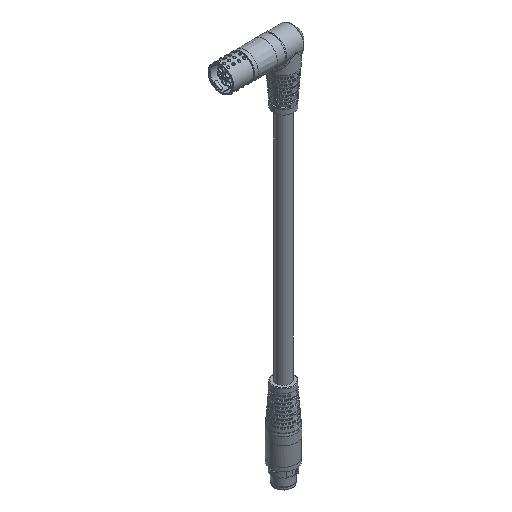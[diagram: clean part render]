
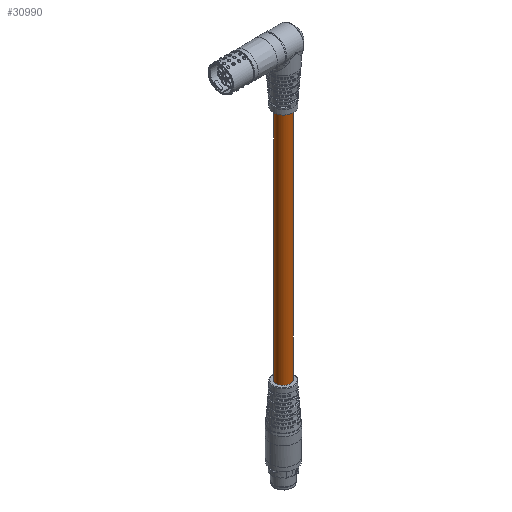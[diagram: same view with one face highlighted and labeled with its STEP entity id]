
A CAD part, isometric view. The second image highlights one B-rep face of the part: STEP entity #30990.
In plain terms, the highlighted cylindrical face has radius 5.8 mm (diameter 11.6 mm), a full revolution.
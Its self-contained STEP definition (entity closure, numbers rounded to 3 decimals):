
#509 = EDGE_CURVE ( 'NONE', #10067, #10067, #19068, .T. ) ;
#1909 = AXIS2_PLACEMENT_3D ( 'NONE', #31959, #25079, #32995 ) ;
#3575 = FACE_OUTER_BOUND ( 'NONE', #33450, .T. ) ;
#5765 = DIRECTION ( 'NONE',  ( 0.48, 0.877, 0. ) ) ;
#10067 = VERTEX_POINT ( 'NONE', #26929 ) ;
#10690 = DIRECTION ( 'NONE',  ( 0., 0., 1. ) ) ;
#13669 = CIRCLE ( 'NONE', #1909, 5.8 ) ;
#15435 = CARTESIAN_POINT ( 'NONE',  ( -43.259, 42.123, -257.807 ) ) ;
#17226 = AXIS2_PLACEMENT_3D ( 'NONE', #15435, #10690, #27043 ) ;
#17889 = CARTESIAN_POINT ( 'NONE',  ( -43.259, 42.123, -257.807 ) ) ;
#19068 = CIRCLE ( 'NONE', #48436, 5.8 ) ;
#22621 = DIRECTION ( 'NONE',  ( 0., 0., 1. ) ) ;
#24220 = EDGE_CURVE ( 'NONE', #39854, #39854, #13669, .T. ) ;
#25009 = ORIENTED_EDGE ( 'NONE', *, *, #509, .T. ) ;
#25079 = DIRECTION ( 'NONE',  ( 0., 0., 1. ) ) ;
#26929 = CARTESIAN_POINT ( 'NONE',  ( -40.474, 47.211, -257.807 ) ) ;
#27043 = DIRECTION ( 'NONE',  ( 0.48, 0.877, 0. ) ) ;
#30916 = EDGE_LOOP ( 'NONE', ( #25009 ) ) ;
#30990 = ADVANCED_FACE ( 'NONE', ( #51022, #3575 ), #51286, .T. ) ;
#31392 = CARTESIAN_POINT ( 'NONE',  ( -40.474, 47.211, -57.807 ) ) ;
#31959 = CARTESIAN_POINT ( 'NONE',  ( -43.259, 42.123, -57.807 ) ) ;
#32995 = DIRECTION ( 'NONE',  ( 0.48, 0.877, 0. ) ) ;
#33450 = EDGE_LOOP ( 'NONE', ( #34105 ) ) ;
#34105 = ORIENTED_EDGE ( 'NONE', *, *, #24220, .F. ) ;
#39854 = VERTEX_POINT ( 'NONE', #31392 ) ;
#48436 = AXIS2_PLACEMENT_3D ( 'NONE', #17889, #22621, #5765 ) ;
#51022 = FACE_OUTER_BOUND ( 'NONE', #30916, .T. ) ;
#51286 = CYLINDRICAL_SURFACE ( 'NONE', #17226, 5.8 ) ;
